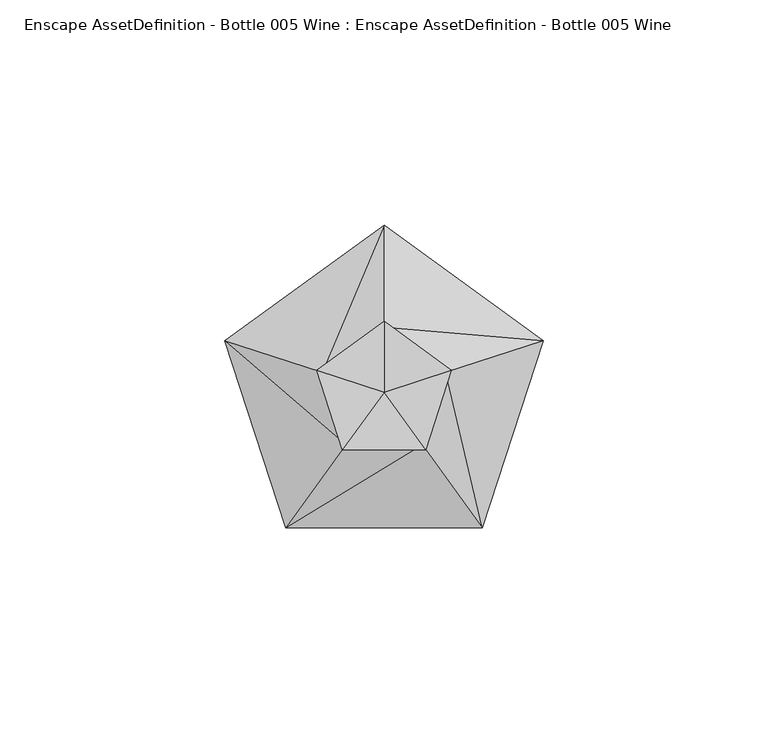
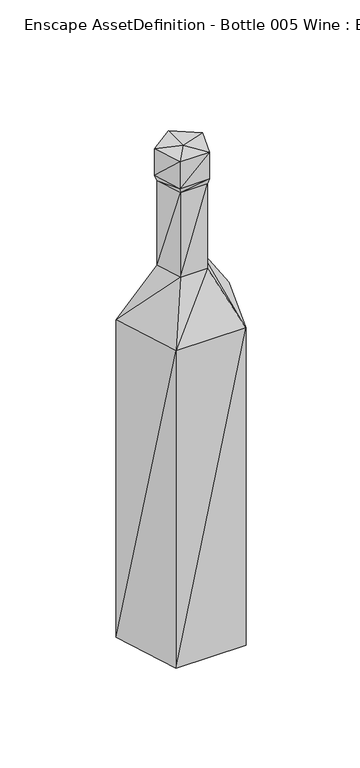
"""IFC4 building model written with IfcOpenShell, lengths in millimetres: geographic element geometry, Enscape AssetDefinition - Bottle 005 Wine : Enscape AssetDefinition - Bottle 005 Wine."""

from ifc_helpers import new_model, si_unit, origin, place, context, project, spatial, faceted_brep, source, transform, mapped, element, save


def enscape_assetdefinition_bottle_005_wine_enscape_060a0c88(model_context):
    return source(origin(), model_context, "Body", "Brep", [
        faceted_brep([(35.3535563, 11.4870686, 0.0), (35.3535563, 11.4870686, 209.8119259), (21.849703, -30.073531, 0.0), (13.7287565, 4.4607511, 242.4931973), (21.849703, -30.073531, 209.8119259), (0.0, 37.1729285, 209.8119259), (0.0, 14.4352699, 242.4931973), (-21.8496937, -30.073531, 0.0), (0.0, 0.0, 0.0), (0.0, 37.1729285, 0.0), (-35.3535563, 11.4870686, 209.8119259), (-13.7287565, 4.4607408, 242.4931973), (-35.3535563, 11.4870686, 0.0), (-21.8496937, -30.073531, 209.8119259), (-8.4848432, -11.6783818, 242.4931973), (-8.4848432, -11.6783818, 298.3552814), (-13.7287565, 4.4607408, 298.3552814), (8.4848432, -11.6783818, 242.4931973), (8.4848432, -11.6783818, 298.3552814), (13.7287565, 4.4607511, 298.3552814), (9.2582721, -12.7429236, 301.9816577), (14.9802025, 4.8673619, 301.9816577), (0.0, 14.4352699, 298.3552814), (-14.9802025, 4.8673619, 301.9816577), (0.0, 15.7511234, 301.9816577), (14.9802025, 4.8673619, 319.5955157), (0.0, 15.7511234, 319.5955157), (-14.9802025, 4.8673619, 319.5955157), (-9.2582721, -12.7429236, 301.9816577), (-9.2582721, -12.7429236, 319.5955157), (0.0, 0.0, 319.5955157), (9.2582721, -12.7429236, 319.5955157)], [[[0, 1, 2]], [[1, 3, 4]], [[5, 6, 1]], [[2, 1, 4]], [[0, 5, 1]], [[1, 6, 3]], [[2, 4, 7]], [[0, 2, 8]], [[2, 7, 8]], [[9, 5, 0]], [[9, 0, 8]], [[10, 11, 5]], [[9, 10, 5]], [[5, 11, 6]], [[12, 10, 9]], [[12, 9, 8]], [[7, 12, 8]], [[7, 13, 12]], [[7, 4, 13]], [[12, 13, 10]], [[13, 14, 10]], [[10, 14, 11]], [[14, 15, 11]], [[11, 16, 6]], [[11, 15, 16]], [[17, 18, 14]], [[13, 17, 14]], [[14, 18, 15]], [[4, 17, 13]], [[3, 19, 17]], [[4, 3, 17]], [[17, 19, 18]], [[18, 20, 15]], [[19, 21, 18]], [[18, 21, 20]], [[19, 22, 21]], [[3, 22, 19]], [[6, 22, 3]], [[16, 23, 22]], [[6, 16, 22]], [[22, 23, 24]], [[21, 22, 24]], [[21, 25, 20]], [[24, 26, 21]], [[21, 26, 25]], [[23, 27, 24]], [[24, 27, 26]], [[28, 29, 23]], [[16, 28, 23]], [[23, 29, 27]], [[26, 27, 30]], [[27, 29, 30]], [[25, 26, 30]], [[31, 25, 30]], [[20, 25, 31]], [[29, 31, 30]], [[28, 31, 29]], [[15, 28, 16]], [[20, 31, 28]], [[15, 20, 28]]]),
    ])


if __name__ == "__main__":
    model = new_model("IFC4")
    model_context = context("Model", 3, world=origin())
    ifc_project = project(units=[si_unit("LENGTHUNIT", "METRE", prefix="MILLI")], contexts=[model_context])
    site = spatial("IfcSite", under=ifc_project)
    building = spatial("IfcBuilding", under=site)
    placement = place(None, origin())
    enscape_assetdefinition_bottle_005_wine_enscape_shape = enscape_assetdefinition_bottle_005_wine_enscape_060a0c88(model_context)
    element("IfcGeographicElement", 1, ObjectType="Enscape AssetDefinition - Bottle 005 Wine : Enscape AssetDefinition - Bottle 005 Wine", at=placement, inside=building, context=model_context, shape_type="MappedRepresentation", body=[
        mapped(enscape_assetdefinition_bottle_005_wine_enscape_shape, transform((0.0, 0.0, 0.0), x_axis=(1.0, 0.0, 0.0), y_axis=(0.0, 1.0, 0.0), z_axis=(0.0, 0.0, 1.0))),
    ])
    save(model, "model.ifc")
